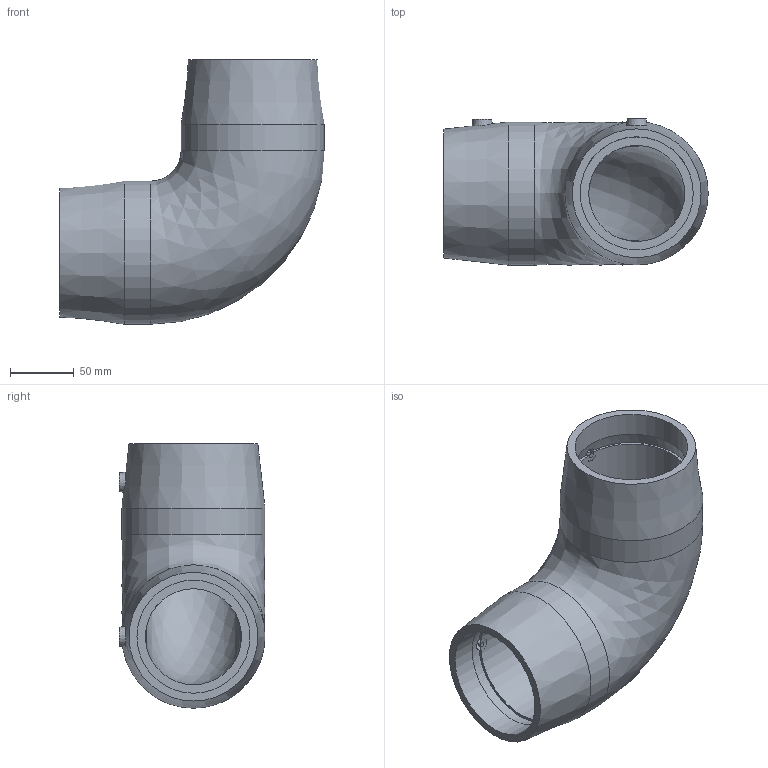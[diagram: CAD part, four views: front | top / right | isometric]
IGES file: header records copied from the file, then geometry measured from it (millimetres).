
Global section: file name: 5905B003030.ipt; native system: Autodesk Inventor 2019; preprocessor: unknown; author: KIM; date: 20210830.101000; units: inch
Bounding box: 207.54 x 114.55 x 207.54 mm (x, y, z)
Volume: 1112417.6 mm3; surface area: 172511 mm2
Topology: 1 solids, 1 shells, 32 faces, 88 edges, 60 vertices
Faces by surface type: plane 12, revolution 12, cylinder 4, cone 4
Full cylindrical faces by diameter (mm): 4 x2, 112.268 x2
